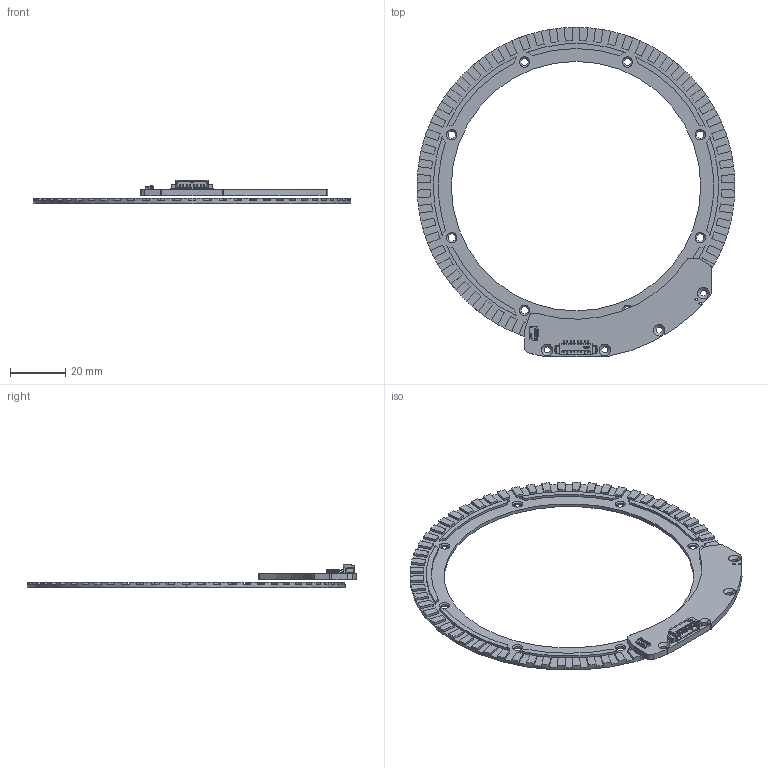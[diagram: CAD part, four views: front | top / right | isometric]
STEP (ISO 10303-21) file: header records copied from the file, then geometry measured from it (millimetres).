
FILE_DESCRIPTION((''),'2;1');
FILE_NAME('SAB115_REV_1_8_ASM','2024-11-21T',('Cujo'),(''),'PRO/ENGINEER BY PARAMETRIC TECHNOLOGY CORPORATION, 2017170','PRO/ENGINEER BY PARAMETRIC TECHNOLOGY CORPORATION, 2017170','');
FILE_SCHEMA(('CONFIG_CONTROL_DESIGN'));
Products named in the file (72): BOARD_1; MANIFOLD_SOLID_BREP_72793_1; MANIFOLD_SOLID_BREP_72297_1; MANIFOLD_SOLID_BREP_71765_1; MANIFOLD_SOLID_BREP_71351_1; MANIFOLD_SOLID_BREP_70808_1; MANIFOLD_SOLID_BREP_69983_1; MANIFOLD_SOLID_BREP_69151_1; MANIFOLD_SOLID_BREP_68737_1; MANIFOLD_SOLID_BREP_68241_1; MANIFOLD_SOLID_BREP_67709_1; MANIFOLD_SOLID_BREP_67295_1; MANIFOLD_SOLID_BREP_66743_1; MANIFOLD_SOLID_BREP_66527_1; MANIFOLD_SOLID_BREP_48799_1; MANIFOLD_SOLID_BREP_47766_1; MANIFOLD_SOLID_BREP_46733_1; CN1_ASM_1_ASM; CN5_ASM_1_ASM; MANIFOLD_SOLID_BREP_191683_1; MANIFOLD_SOLID_BREP_191187_1; MANIFOLD_SOLID_BREP_190655_1; MANIFOLD_SOLID_BREP_190241_1; MANIFOLD_SOLID_BREP_189698_1; MANIFOLD_SOLID_BREP_188873_1; MANIFOLD_SOLID_BREP_188041_1; MANIFOLD_SOLID_BREP_187627_1; MANIFOLD_SOLID_BREP_187131_1; MANIFOLD_SOLID_BREP_186599_1; MANIFOLD_SOLID_BREP_186185_1; MANIFOLD_SOLID_BREP_185633_1; MANIFOLD_SOLID_BREP_185417_1; MANIFOLD_SOLID_BREP_185265_1; MANIFOLD_SOLID_BREP_185113_1; MANIFOLD_SOLID_BREP_184961_1; MANIFOLD_SOLID_BREP_184809_1; MANIFOLD_SOLID_BREP_184657_1; MANIFOLD_SOLID_BREP_184472_1; MANIFOLD_SOLID_BREP_184287_1; MANIFOLD_SOLID_BREP_184102_1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
Assembly tree (71 placements, depth 6):
  SAB115_REV_1_8_ASM
    SAB115_REV_1_8_ASM_1_ASM
      PCB_ASM_1_ASM
        BOARD_1
        CN5_ASM_1_ASM
          CN1_ASM_1_ASM
            MANIFOLD_SOLID_BREP_72793_1
            MANIFOLD_SOLID_BREP_72297_1
            MANIFOLD_SOLID_BREP_71765_1
            MANIFOLD_SOLID_BREP_71351_1
            MANIFOLD_SOLID_BREP_70808_1
            MANIFOLD_SOLID_BREP_69983_1
            MANIFOLD_SOLID_BREP_69151_1
            MANIFOLD_SOLID_BREP_68737_1
            MANIFOLD_SOLID_BREP_68241_1
            MANIFOLD_SOLID_BREP_67709_1
            MANIFOLD_SOLID_BREP_67295_1
            MANIFOLD_SOLID_BREP_66743_1
            MANIFOLD_SOLID_BREP_66527_1
            MANIFOLD_SOLID_BREP_48799_1
            MANIFOLD_SOLID_BREP_47766_1
            MANIFOLD_SOLID_BREP_46733_1
        FPC5_ASM_1_ASM
          FPC1_ASM_1_ASM
            MANIFOLD_SOLID_BREP_191683_1
            MANIFOLD_SOLID_BREP_191187_1
            MANIFOLD_SOLID_BREP_190655_1
            MANIFOLD_SOLID_BREP_190241_1
            MANIFOLD_SOLID_BREP_189698_1
            MANIFOLD_SOLID_BREP_188873_1
            MANIFOLD_SOLID_BREP_188041_1
            MANIFOLD_SOLID_BREP_187627_1
            MANIFOLD_SOLID_BREP_187131_1
            MANIFOLD_SOLID_BREP_186599_1
            MANIFOLD_SOLID_BREP_186185_1
            MANIFOLD_SOLID_BREP_185633_1
            MANIFOLD_SOLID_BREP_185417_1
            MANIFOLD_SOLID_BREP_185265_1
            MANIFOLD_SOLID_BREP_185113_1
            MANIFOLD_SOLID_BREP_184961_1
            MANIFOLD_SOLID_BREP_184809_1
            MANIFOLD_SOLID_BREP_184657_1
            MANIFOLD_SOLID_BREP_184472_1
            MANIFOLD_SOLID_BREP_184287_1
            MANIFOLD_SOLID_BREP_184102_1
            MANIFOLD_SOLID_BREP_183917_1
            MANIFOLD_SOLID_BREP_183732_1
            MANIFOLD_SOLID_BREP_183582_1
            MANIFOLD_SOLID_BREP_183432_1
            MANIFOLD_SOLID_BREP_183282_1
            MANIFOLD_SOLID_BREP_183132_1
            MANIFOLD_SOLID_BREP_182982_1
            MANIFOLD_SOLID_BREP_182826_1
            MANIFOLD_SOLID_BREP_182670_1
            MANIFOLD_SOLID_BREP_182514_1
            MANIFOLD_SOLID_BREP_182358_1
            MANIFOLD_SOLID_BREP_182202_1
            MANIFOLD_SOLID_BREP_182052_1
            MANIFOLD_SOLID_BREP_181902_1
            MANIFOLD_SOLID_BREP_181752_1
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Bounding box: 114.6 x 118.8 x 8.55 mm (x, y, z)
Volume: 8315.8 mm3; surface area: 13045.5 mm2
Topology: 65 solids, 65 shells, 1791 faces, 4813 edges, 3191 vertices
Faces by surface type: plane 1211, cylinder 300, extrusion 250, cone 24, bspline 4, sphere 2
Entity records: 81531 total; most frequent: CARTESIAN_POINT 21439, ORIENTED_EDGE 9622, DIRECTION 8498, EDGE_CURVE 4811, VECTOR 3792, LINE 3542, VERTEX_POINT 3191, PRESENTATION_STYLE_ASSIGNMENT 2791
